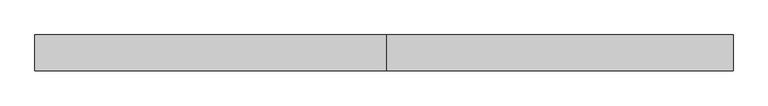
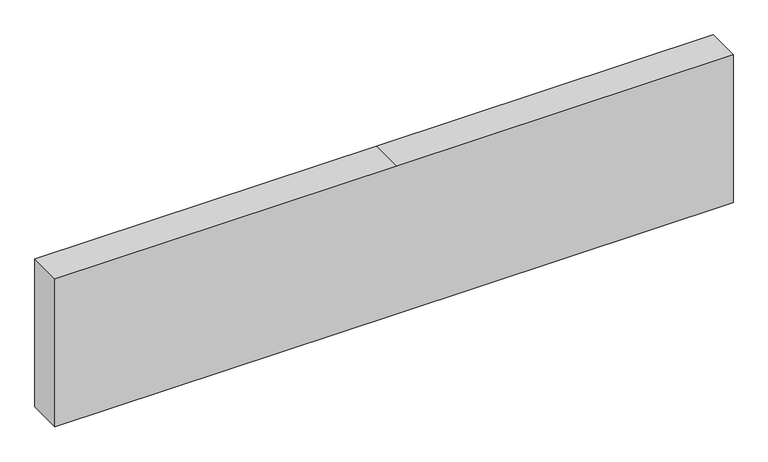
"""IFC4 building model written with IfcOpenShell, lengths in millimetres: plate geometry, Системная панель : Алюкобонд красный."""

from ifc_helpers import new_model, si_unit, frame, origin, place, context, project, spatial, polyline, outline, extrude, source, transform, mapped, element, save


def plate_8b92e599(model_context):
    return source(origin(), model_context, "Body", "SweptSolid", [
        extrude(outline(polyline([(0.0, -585.0), (0.0, 5.0), (0.0, 585.0), (270.0, 585.0), (270.0, 5.0), (270.0, -585.0), (0.0, -585.0)])), frame((0.0, -10.5, 0.0), z_axis=(0.0, 1.0, 0.0), x_axis=(0.0, 0.0, 1.0)), (0.0, 0.0, 1.0), 60.0),
    ])


if __name__ == "__main__":
    model = new_model("IFC4")
    model_context = context("Model", 3, world=origin())
    ifc_project = project(units=[si_unit("LENGTHUNIT", "METRE", prefix="MILLI")], contexts=[model_context])
    site = spatial("IfcSite", under=ifc_project)
    building = spatial("IfcBuilding", under=site)
    placement = place(None, origin())
    plate_shape = plate_8b92e599(model_context)
    element("IfcPlate", 1, ObjectType="Системная панель : Алюкобонд красный", at=placement, inside=building, context=model_context, shape_type="MappedRepresentation", body=[
        mapped(plate_shape, transform((0.0, 0.0, 0.0), x_axis=(1.0, 0.0, 0.0), y_axis=(0.0, 1.0, 0.0), z_axis=(0.0, 0.0, 1.0))),
    ])
    save(model, "model.ifc")
